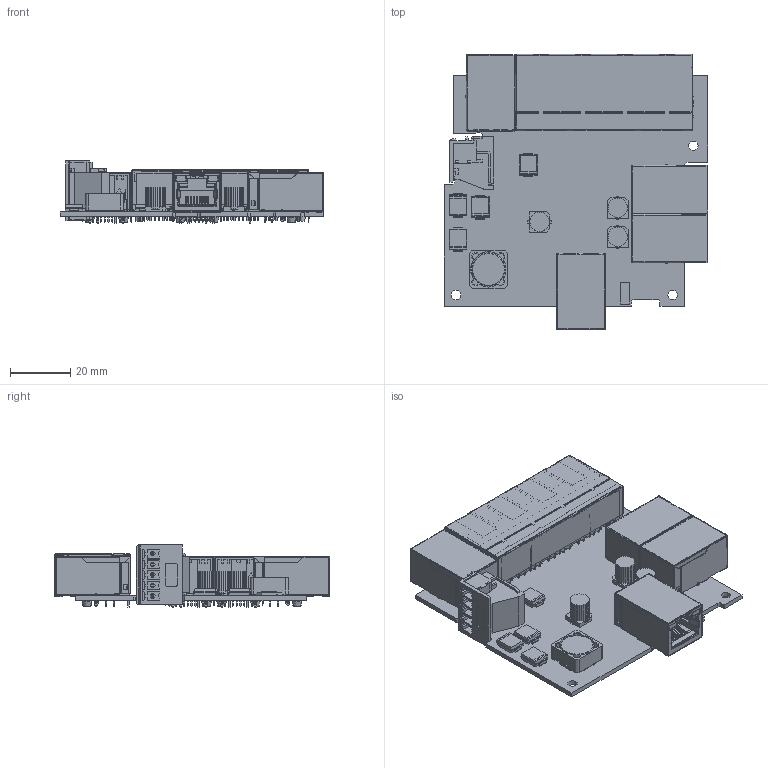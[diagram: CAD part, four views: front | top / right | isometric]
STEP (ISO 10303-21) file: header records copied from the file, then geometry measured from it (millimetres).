
FILE_DESCRIPTION(('STEP AP214'),'1');
FILE_NAME('SW-108.step','2022-08-25T10:19:40',(' '),(' '),'Spatial InterOp 3D','XD3DPlugin XRACreate',' ');
FILE_SCHEMA(('automotive_design'));
Length unit declared in the file: millimetre
Products named in the file (27): Submodel-Input_S\00MAGJACKILED.xtd; 00MAGJACKILED; Submodel-00MAGJACKILED_part_simplified_MAGJACK_LEDS; DesignRootModel; Submodel-Input_S\6610UH5A5.xtd; 6610UH5A5; Submodel-6610UH5A5_part_simplified_SRR1260; Submodel-Input_S\SMC.xtd; SMC; Submodel-55TZ1K5SMC36V_part_simplified_SMC; Submodel-Input_S\SMD_ELEC_D.xtd; SMD_ELEC_D; Submodel-7547UF50V_part_simplified_SMD_ELEC_D; Submodel-Input_S\82HEA3MM5TBX5_L_BLACK.xtd; 82HEA3MM5TBX5_L_BLACK; Submodel-82HEA3MM5TBX5_L_BLACK_part_simplified_TBX5_LEFT; Submodel-Input_S\00MAGJACK1X4.xtd; 00MAGJACK1X4; Submodel-00MAGJACK1X4_part_simplified_MAGJACK1X4; uid__9223372036856274310; Submodel-AssyDefn_1; BrainboxesLogo2.step; Submodel-noModelForPart_CHASSISPINS_1505797551; placementOutline; Submodel-CHASSISPINS_1505797551_part_CHASSISPINS; SW-108; SW-108_Copper
Assembly tree (34 placements, depth 5):
  SW-108
    DesignRootModel
      Submodel-00MAGJACKILED_part_simplified_MAGJACK_LEDS  x4
        Submodel-Input_S\00MAGJACKILED.xtd
          00MAGJACKILED
      Submodel-6610UH5A5_part_simplified_SRR1260
        Submodel-Input_S\6610UH5A5.xtd
          6610UH5A5
      Submodel-55TZ1K5SMC36V_part_simplified_SMC  x4
        Submodel-Input_S\SMC.xtd
          SMC
      Submodel-7547UF50V_part_simplified_SMD_ELEC_D  x3
        Submodel-Input_S\SMD_ELEC_D.xtd
          SMD_ELEC_D
      Submodel-82HEA3MM5TBX5_L_BLACK_part_simplified_TBX5_LEFT
        Submodel-Input_S\82HEA3MM5TBX5_L_BLACK.xtd
          82HEA3MM5TBX5_L_BLACK
      Submodel-00MAGJACK1X4_part_simplified_MAGJACK1X4
        Submodel-Input_S\00MAGJACK1X4.xtd
          00MAGJACK1X4
      uid__9223372036856274310
      Submodel-AssyDefn_1
        BrainboxesLogo2.step
      Submodel-CHASSISPINS_1505797551_part_CHASSISPINS
        Submodel-noModelForPart_CHASSISPINS_1505797551
          placementOutline
    SW-108_Copper
Bounding box: 87.74 x 91.5 x 20.65 mm (x, y, z)
Volume: 38755.1 mm3; surface area: 76994.8 mm2
Topology: 144 solids, 160 shells, 15254 faces, 42426 edges, 27298 vertices
Faces by surface type: plane 12566, cylinder 2252, bspline 312, torus 68, sphere 36, cone 20
Entity records: 360861 total; most frequent: CARTESIAN_POINT 54731, ORIENTED_EDGE 51036, DIRECTION 48051, EDGE_CURVE 25518, LINE 20585, VECTOR 20585, VERTEX_POINT 16655, AXIS2_PLACEMENT_3D 13733
